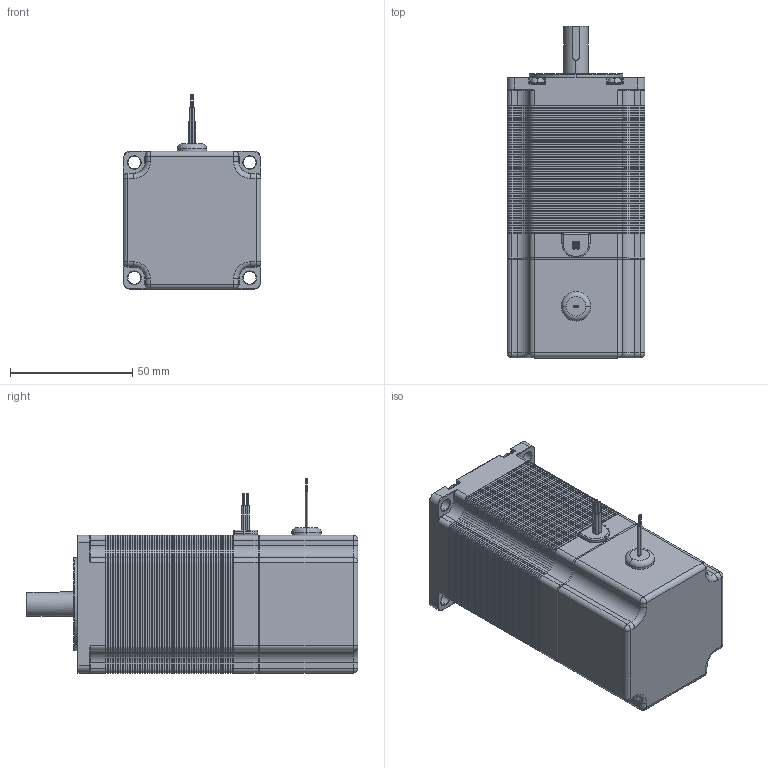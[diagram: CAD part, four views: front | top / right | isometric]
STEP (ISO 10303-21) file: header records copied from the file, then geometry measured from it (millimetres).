
FILE_DESCRIPTION (( 'STEP AP214' ), '1' );
FILE_NAME ('Nema 23 Stepper Motor length 76mm_10mm_key_BRK.STEP', '2020-11-11T13:29:06', ( 'Moofasta' ), ( '' ), 'SwSTEP 2.0', 'SolidWorks 2020', '' );
FILE_SCHEMA (( 'AUTOMOTIVE_DESIGN' ));
Length unit declared in the file: millimetre
Products named in the file (1): Nema 23 Stepper Motor length 76mm_10mm_key_BRK
Bounding box: 56.3 x 135.5 x 79.3 mm (x, y, z)
Volume: 330278 mm3; surface area: 334086.7 mm2
Topology: 68 solids, 69 shells, 4396 faces, 9997 edges, 5723 vertices
Faces by surface type: plane 2169, cone 1276, cylinder 823, torus 100, sphere 20, bspline 8
Entity records: 165410 total; most frequent: DIRECTION 21746, CARTESIAN_POINT 20569, ORIENTED_EDGE 19938, EDGE_CURVE 9969, AXIS2_PLACEMENT_3D 7464, VECTOR 6818, LINE 6818, VERTEX_POINT 5723
